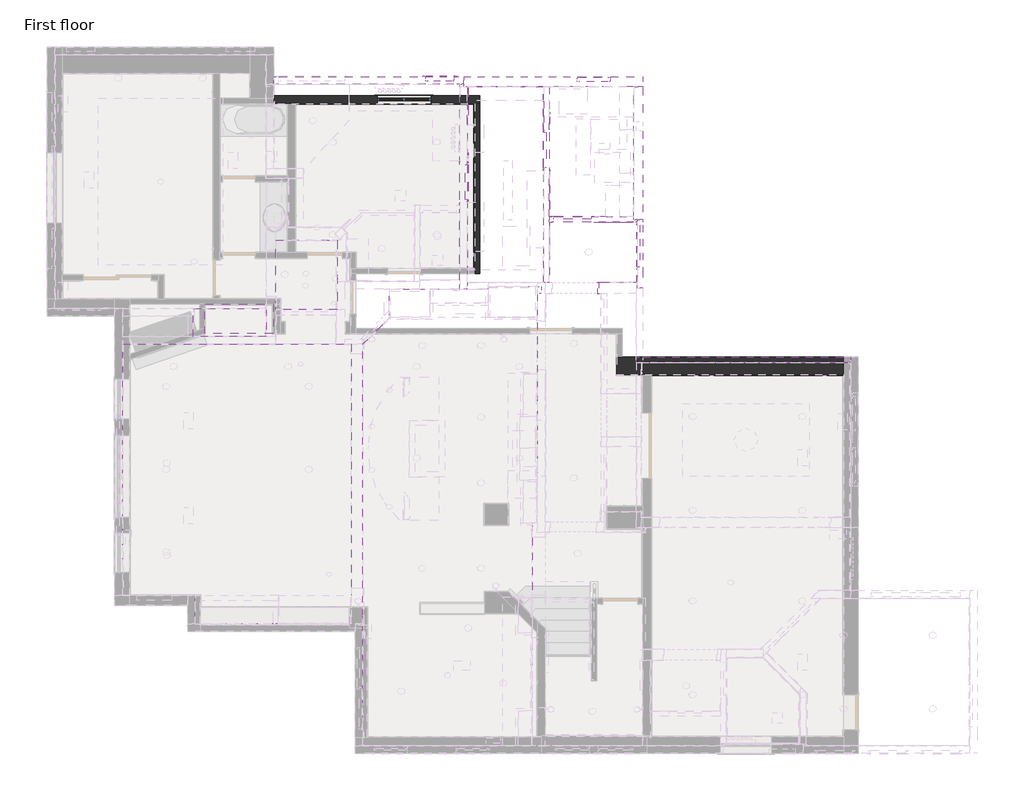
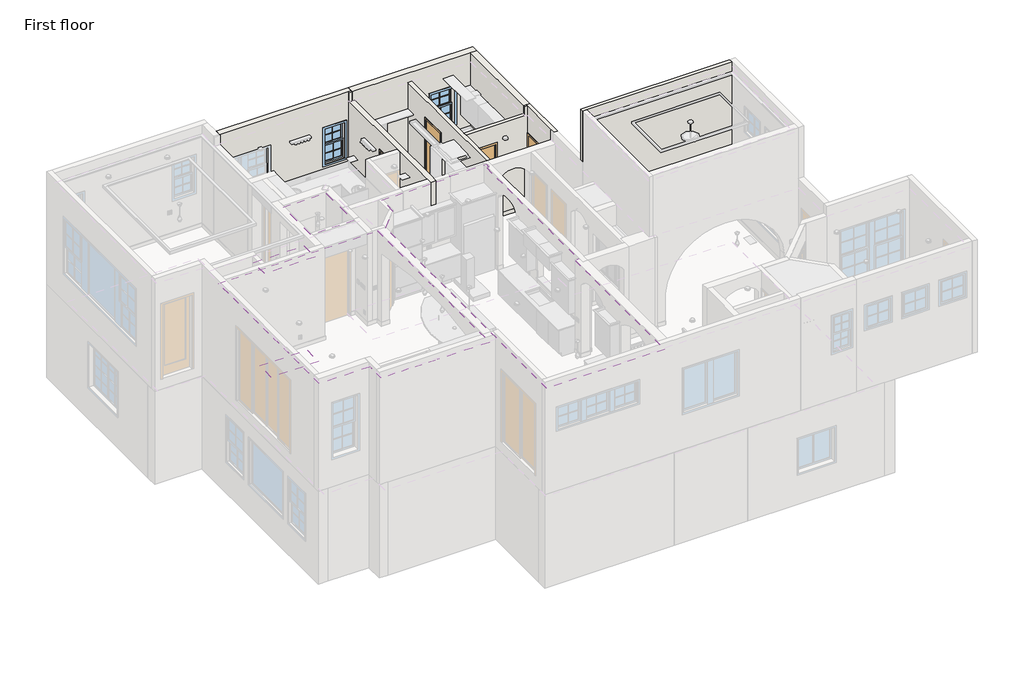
# One storey, part 8 of 14: 32 walls, 5 coverings, 4 doors, 3 windows.
"""IFC4 building model written with IfcOpenShell, lengths in millimetres."""

from ifc_helpers import new_model, si_unit, frame, origin, origin_with_axes, place, context, project, spatial, polyline, circle_curve, outline, extrude, faceted_brep, transform, mapped, element, save
from ifc_brep_helpers import plane_surface, revolved_surface, advanced_brep
from components import door_8ee43d1d, door_5d21c0d5, door_c59346e6, door_72c844fb, window_7b8e3ef4, window_c8df617f, window_f6dbb88f

model = new_model("IFC4")

# Units and contexts
model_context = context("Model", 3, world=origin())
ifc_project = project(units=[si_unit("LENGTHUNIT", "METRE", prefix="MILLI")], contexts=[model_context])

# Site, building, storey
site = spatial("IfcSite", under=ifc_project)
building = spatial("IfcBuilding", under=site)
storey = spatial("IfcBuildingStorey", under=building, Name="First floor", Elevation=0.0)

# Coverings
placement = place(None, origin())
element("IfcCovering", 1, ObjectType="Ceiling_1.5\"", at=placement, inside=storey, context=model_context, shape_type="AdvancedBrep", body=[
    advanced_brep(
    [(-88.9, 8851.9, 6299.2), (-406.4, 8851.9, 6299.2), (-1720.85, 8851.9, 6299.2), (-5029.2, 8851.9, 6299.2), (-5029.2, 3416.3, 6299.2), (-3454.4, 3416.3, 6299.2), (-3454.4, 2806.7, 6299.2), (-88.9, 2806.7, 6299.2), (-4152.9, 4356.1, 6299.2), (-4025.9, 4356.1, 6299.2), (-4152.9, 6140.0539638, 6299.2), (-4025.9, 6140.0539638, 6299.2), (-4152.9, 7938.0669477, 6299.2), (-4025.9, 7938.0669477, 6299.2), (-1064.7559661, 7938.0669477, 6299.2), (-937.7559661, 7938.0669477, 6299.2), (-1064.7559661, 6139.4838752, 6299.2), (-937.7559661, 6139.4838752, 6299.2), (-5029.2, 3416.3, 6261.1), (-5029.2, 8851.9, 6261.1), (-88.9, 8851.9, 6261.1), (-88.9, 2806.7, 6261.1), (-1663.7, 2806.7, 6261.1), (-1778.0, 2806.7, 6261.1), (-3454.4, 2806.7, 6261.1), (-3454.4, 3302.0, 6261.1), (-3454.4, 3416.3, 6261.1), (-4025.9, 4356.1, 6261.1), (-4152.9, 4356.1, 6261.1), (-4025.9, 6140.0539638, 6261.1), (-4152.9, 6140.0539638, 6261.1), (-4025.9, 7938.0669477, 6261.1), (-4152.9, 7938.0669477, 6261.1), (-937.7559661, 7938.0669477, 6261.1), (-1064.7559661, 7938.0669477, 6261.1), (-937.7559661, 6139.4838752, 6261.1), (-1064.7559661, 6139.4838752, 6261.1)],
    [
        (0, 1),
        (1, 2),
        (2, 3),
        (3, 4),
        (4, 5),
        (5, 6),
        (6, 7),
        (7, 0),
        (8, 9, circle_curve(frame((-4089.4, 4356.1, 6299.2), z_axis=(0.0, 0.0, -1.0), x_axis=(1.0, 0.0, 0.0)), 63.5)),
        (9, 8, circle_curve(frame((-4089.4, 4356.1, 6299.2), z_axis=(0.0, 0.0, -1.0), x_axis=(1.0, 0.0, 0.0)), 63.5)),
        (10, 11, circle_curve(frame((-4089.4, 6140.0539638, 6299.2), z_axis=(0.0, 0.0, -1.0), x_axis=(1.0, 0.0, 0.0)), 63.5)),
        (11, 10, circle_curve(frame((-4089.4, 6140.0539638, 6299.2), z_axis=(0.0, 0.0, -1.0), x_axis=(1.0, 0.0, 0.0)), 63.5)),
        (12, 13, circle_curve(frame((-4089.4, 7938.0669477, 6299.2), z_axis=(0.0, 0.0, -1.0), x_axis=(1.0, 0.0, 0.0)), 63.5)),
        (13, 12, circle_curve(frame((-4089.4, 7938.0669477, 6299.2), z_axis=(0.0, 0.0, -1.0), x_axis=(1.0, 0.0, 0.0)), 63.5)),
        (14, 15, circle_curve(frame((-1001.2559661, 7938.0669477, 6299.2), z_axis=(0.0, 0.0, -1.0), x_axis=(1.0, 0.0, 0.0)), 63.5)),
        (15, 14, circle_curve(frame((-1001.2559661, 7938.0669477, 6299.2), z_axis=(0.0, 0.0, -1.0), x_axis=(1.0, 0.0, 0.0)), 63.5)),
        (16, 17, circle_curve(frame((-1001.2559661, 6139.4838752, 6299.2), z_axis=(0.0, 0.0, -1.0), x_axis=(1.0, 0.0, 0.0)), 63.5)),
        (17, 16, circle_curve(frame((-1001.2559661, 6139.4838752, 6299.2), z_axis=(0.0, 0.0, -1.0), x_axis=(1.0, 0.0, 0.0)), 63.5)),
        (18, 19),
        (19, 20),
        (20, 21),
        (21, 22),
        (22, 23),
        (23, 24),
        (24, 25),
        (25, 26),
        (26, 18),
        (27, 28, circle_curve(frame((-4089.4, 4356.1, 6261.1), z_axis=(0.0, 0.0, 1.0), x_axis=(1.0, 0.0, 0.0)), 63.5)),
        (28, 27, circle_curve(frame((-4089.4, 4356.1, 6261.1), z_axis=(0.0, 0.0, 1.0), x_axis=(1.0, 0.0, 0.0)), 63.5)),
        (29, 30, circle_curve(frame((-4089.4, 6140.0539638, 6261.1), z_axis=(0.0, 0.0, 1.0), x_axis=(1.0, 0.0, 0.0)), 63.5)),
        (30, 29, circle_curve(frame((-4089.4, 6140.0539638, 6261.1), z_axis=(0.0, 0.0, 1.0), x_axis=(1.0, 0.0, 0.0)), 63.5)),
        (31, 32, circle_curve(frame((-4089.4, 7938.0669477, 6261.1), z_axis=(0.0, 0.0, 1.0), x_axis=(1.0, 0.0, 0.0)), 63.5)),
        (32, 31, circle_curve(frame((-4089.4, 7938.0669477, 6261.1), z_axis=(0.0, 0.0, 1.0), x_axis=(1.0, 0.0, 0.0)), 63.5)),
        (33, 34, circle_curve(frame((-1001.2559661, 7938.0669477, 6261.1), z_axis=(0.0, 0.0, 1.0), x_axis=(1.0, 0.0, 0.0)), 63.5)),
        (34, 33, circle_curve(frame((-1001.2559661, 7938.0669477, 6261.1), z_axis=(0.0, 0.0, 1.0), x_axis=(1.0, 0.0, 0.0)), 63.5)),
        (35, 36, circle_curve(frame((-1001.2559661, 6139.4838752, 6261.1), z_axis=(0.0, 0.0, 1.0), x_axis=(1.0, 0.0, 0.0)), 63.5)),
        (36, 35, circle_curve(frame((-1001.2559661, 6139.4838752, 6261.1), z_axis=(0.0, 0.0, 1.0), x_axis=(1.0, 0.0, 0.0)), 63.5)),
        (3, 19),
        (18, 4),
        (26, 5),
        (24, 6),
        (21, 7),
        (20, 0),
        (27, 9),
        (8, 28),
        (29, 11),
        (10, 30),
        (31, 13),
        (12, 32),
        (33, 15),
        (14, 34),
        (35, 17),
        (16, 36),
    ],
    [
        plane_surface(frame((-3619.5, 3416.3, 6299.2), z_axis=(0.0, 0.0, 1.0), x_axis=(1.0, 0.0, 0.0))),
        plane_surface(frame((-3619.5, 3416.3, 6261.1), z_axis=(0.0, 0.0, -1.0), x_axis=(-1.0, 0.0, 0.0))),
        plane_surface(frame((-5029.2, 8851.9, 6299.2), z_axis=(-1.0, 0.0, 0.0), x_axis=(0.0, 0.0, -1.0))),
        plane_surface(frame((-5029.2, 3416.3, 6299.2), z_axis=(0.0, -1.0, 0.0), x_axis=(0.0, 0.0, -1.0))),
        plane_surface(frame((-3454.4, 3416.3, 6299.2), z_axis=(-1.0, 0.0, 0.0), x_axis=(0.0, 0.0, -1.0))),
        plane_surface(frame((-3454.4, 2806.7, 6299.2), z_axis=(0.0, -1.0, 0.0), x_axis=(0.0, 0.0, -1.0))),
        plane_surface(frame((-88.9, 2806.7, 6299.2), z_axis=(1.0, 0.0, 0.0), x_axis=(0.0, 0.0, -1.0))),
        plane_surface(frame((-88.9, 8851.9, 6299.2), z_axis=(0.0, 1.0, 0.0), x_axis=(0.0, 0.0, -1.0))),
        revolved_surface(polyline([(-4025.9, 4356.1, 6261.1), (-4025.9, 4356.1, 6299.2)]), (-4089.4, 4356.1, 6299.2), (0.0, 0.0, -1.0)),
        revolved_surface(polyline([(-4025.9, 6140.0539638, 6261.1), (-4025.9, 6140.0539638, 6299.2)]), (-4089.4, 6140.0539638, 6299.2), (0.0, 0.0, -1.0)),
        revolved_surface(polyline([(-4025.9, 7938.0669477, 6261.1), (-4025.9, 7938.0669477, 6299.2)]), (-4089.4, 7938.0669477, 6299.2), (0.0, 0.0, -1.0)),
        revolved_surface(polyline([(-937.7559661, 7938.0669477, 6261.1), (-937.7559661, 7938.0669477, 6299.2)]), (-1001.2559661, 7938.0669477, 6299.2), (0.0, 0.0, -1.0)),
        revolved_surface(polyline([(-937.7559661, 6139.4838752, 6261.1), (-937.7559661, 6139.4838752, 6299.2)]), (-1001.2559661, 6139.4838752, 6299.2), (0.0, 0.0, -1.0)),
    ],
    [
        (0, [[1, 2, 3, 4, 5, 6, 7, 8], [9, 10], [11, 12], [13, 14], [15, 16], [17, 18]]),
        (1, [[19, 20, 21, 22, 23, 24, 25, 26, 27], [28, 29], [30, 31], [32, 33], [34, 35], [36, 37]]),
        (2, [[-4, 38, -19, 39]]),
        (3, [[-5, -39, -27, 40]]),
        (4, [[-6, -40, -26, -25, 41]]),
        (5, [[-7, -41, -24, -23, -22, 42]]),
        (6, [[-8, -42, -21, 43]]),
        (7, [[-43, -20, -38, -3, -2, -1]]),
        (8, [[44, -9, 45, -28]]),
        (8, [[-44, -29, -45, -10]]),
        (9, [[46, -11, 47, -30]]),
        (9, [[-46, -31, -47, -12]]),
        (10, [[48, -13, 49, -32]]),
        (10, [[-48, -33, -49, -14]]),
        (11, [[50, -15, 51, -34]]),
        (11, [[-50, -35, -51, -16]]),
        (12, [[52, -17, 53, -36]]),
        (12, [[-52, -37, -53, -18]]),
    ],
),
])
element("IfcCovering", 2, ObjectType="Ceiling_1.5\" 1", at=placement, inside=storey, context=model_context, shape_type="AdvancedBrep", body=[
    advanced_brep(
    [(2870.2, 10045.7, 6299.2), (736.4972395, 10045.7, 6299.2), (736.4972395, 9423.2972395, 6299.2), (165.1, 8851.9, 6299.2), (165.1, 165.1, 6299.2), (3822.7, 165.1, 6299.2), (3822.7, 4984.6447939, 6299.2), (3937.0, 4984.6447939, 6299.2), (3937.0, 9943.9947939, 6299.2), (4019.55, 9943.9947939, 6299.2), (4019.55, 10096.5, 6299.2), (3937.0, 10096.5, 6299.2), (2870.2, 10096.5, 6299.2), (2654.1972395, 8826.5, 6299.2), (2781.1972395, 8826.5, 6299.2), (2654.1972395, 7277.1, 6299.2), (2781.1972395, 7277.1, 6299.2), (2654.1972395, 5854.7, 6299.2), (2781.1972395, 5854.7, 6299.2), (2654.1972395, 4005.016738, 6299.2), (2781.1972395, 4005.016738, 6299.2), (1384.1972395, 4005.016738, 6299.2), (1511.1972395, 4005.016738, 6299.2), (1384.1972395, 8826.5, 6299.2), (1511.1972395, 8826.5, 6299.2), (736.4972395, 10045.7, 6261.1), (2870.2, 10045.7, 6261.1), (2870.2, 10096.5, 6261.1), (3937.0, 10096.5, 6261.1), (4019.55, 10096.5, 6261.1), (4019.55, 9943.9947939, 6261.1), (3937.0, 9943.9947939, 6261.1), (3937.0, 4984.6447939, 6261.1), (3822.7, 4984.6447939, 6261.1), (3822.7, 165.1, 6261.1), (165.1, 165.1, 6261.1), (165.1, 8851.9, 6261.1), (736.4972395, 9423.2972395, 6261.1), (2781.1972395, 8826.5, 6261.1), (2654.1972395, 8826.5, 6261.1), (2781.1972395, 7277.1, 6261.1), (2654.1972395, 7277.1, 6261.1), (2781.1972395, 5854.7, 6261.1), (2654.1972395, 5854.7, 6261.1), (2781.1972395, 4005.016738, 6261.1), (2654.1972395, 4005.016738, 6261.1), (1511.1972395, 4005.016738, 6261.1), (1384.1972395, 4005.016738, 6261.1), (1511.1972395, 8826.5, 6261.1), (1384.1972395, 8826.5, 6261.1)],
    [
        (0, 1),
        (1, 2),
        (2, 3),
        (3, 4),
        (4, 5),
        (5, 6),
        (6, 7),
        (7, 8),
        (8, 9),
        (9, 10),
        (10, 11),
        (11, 12),
        (12, 0),
        (13, 14, circle_curve(frame((2717.6972395, 8826.5, 6299.2), z_axis=(0.0, 0.0, -1.0), x_axis=(1.0, 0.0, 0.0)), 63.5)),
        (14, 13, circle_curve(frame((2717.6972395, 8826.5, 6299.2), z_axis=(0.0, 0.0, -1.0), x_axis=(1.0, 0.0, 0.0)), 63.5)),
        (15, 16, circle_curve(frame((2717.6972395, 7277.1, 6299.2), z_axis=(0.0, 0.0, -1.0), x_axis=(1.0, 0.0, 0.0)), 63.5)),
        (16, 15, circle_curve(frame((2717.6972395, 7277.1, 6299.2), z_axis=(0.0, 0.0, -1.0), x_axis=(1.0, 0.0, 0.0)), 63.5)),
        (17, 18, circle_curve(frame((2717.6972395, 5854.7, 6299.2), z_axis=(0.0, 0.0, -1.0), x_axis=(1.0, 0.0, 0.0)), 63.5)),
        (18, 17, circle_curve(frame((2717.6972395, 5854.7, 6299.2), z_axis=(0.0, 0.0, -1.0), x_axis=(1.0, 0.0, 0.0)), 63.5)),
        (19, 20, circle_curve(frame((2717.6972395, 4005.016738, 6299.2), z_axis=(0.0, 0.0, -1.0), x_axis=(1.0, 0.0, 0.0)), 63.5)),
        (20, 19, circle_curve(frame((2717.6972395, 4005.016738, 6299.2), z_axis=(0.0, 0.0, -1.0), x_axis=(1.0, 0.0, 0.0)), 63.5)),
        (21, 22, circle_curve(frame((1447.6972395, 4005.016738, 6299.2), z_axis=(0.0, 0.0, -1.0), x_axis=(1.0, 0.0, 0.0)), 63.5)),
        (22, 21, circle_curve(frame((1447.6972395, 4005.016738, 6299.2), z_axis=(0.0, 0.0, -1.0), x_axis=(1.0, 0.0, 0.0)), 63.5)),
        (23, 24, circle_curve(frame((1447.6972395, 8826.5, 6299.2), z_axis=(0.0, 0.0, -1.0), x_axis=(1.0, 0.0, 0.0)), 63.5)),
        (24, 23, circle_curve(frame((1447.6972395, 8826.5, 6299.2), z_axis=(0.0, 0.0, -1.0), x_axis=(1.0, 0.0, 0.0)), 63.5)),
        (25, 26),
        (26, 27),
        (27, 28),
        (28, 29),
        (29, 30),
        (30, 31),
        (31, 32),
        (32, 33),
        (33, 34),
        (34, 35),
        (35, 36),
        (36, 37),
        (37, 25),
        (38, 39, circle_curve(frame((2717.6972395, 8826.5, 6261.1), z_axis=(0.0, 0.0, 1.0), x_axis=(1.0, 0.0, 0.0)), 63.5)),
        (39, 38, circle_curve(frame((2717.6972395, 8826.5, 6261.1), z_axis=(0.0, 0.0, 1.0), x_axis=(1.0, 0.0, 0.0)), 63.5)),
        (40, 41, circle_curve(frame((2717.6972395, 7277.1, 6261.1), z_axis=(0.0, 0.0, 1.0), x_axis=(1.0, 0.0, 0.0)), 63.5)),
        (41, 40, circle_curve(frame((2717.6972395, 7277.1, 6261.1), z_axis=(0.0, 0.0, 1.0), x_axis=(1.0, 0.0, 0.0)), 63.5)),
        (42, 43, circle_curve(frame((2717.6972395, 5854.7, 6261.1), z_axis=(0.0, 0.0, 1.0), x_axis=(1.0, 0.0, 0.0)), 63.5)),
        (43, 42, circle_curve(frame((2717.6972395, 5854.7, 6261.1), z_axis=(0.0, 0.0, 1.0), x_axis=(1.0, 0.0, 0.0)), 63.5)),
        (44, 45, circle_curve(frame((2717.6972395, 4005.016738, 6261.1), z_axis=(0.0, 0.0, 1.0), x_axis=(1.0, 0.0, 0.0)), 63.5)),
        (45, 44, circle_curve(frame((2717.6972395, 4005.016738, 6261.1), z_axis=(0.0, 0.0, 1.0), x_axis=(1.0, 0.0, 0.0)), 63.5)),
        (46, 47, circle_curve(frame((1447.6972395, 4005.016738, 6261.1), z_axis=(0.0, 0.0, 1.0), x_axis=(1.0, 0.0, 0.0)), 63.5)),
        (47, 46, circle_curve(frame((1447.6972395, 4005.016738, 6261.1), z_axis=(0.0, 0.0, 1.0), x_axis=(1.0, 0.0, 0.0)), 63.5)),
        (48, 49, circle_curve(frame((1447.6972395, 8826.5, 6261.1), z_axis=(0.0, 0.0, 1.0), x_axis=(1.0, 0.0, 0.0)), 63.5)),
        (49, 48, circle_curve(frame((1447.6972395, 8826.5, 6261.1), z_axis=(0.0, 0.0, 1.0), x_axis=(1.0, 0.0, 0.0)), 63.5)),
        (0, 26),
        (25, 1),
        (37, 2),
        (36, 3),
        (35, 4),
        (34, 5),
        (33, 6),
        (32, 7),
        (31, 8),
        (30, 9),
        (29, 10),
        (27, 12),
        (38, 14),
        (13, 39),
        (40, 16),
        (15, 41),
        (42, 18),
        (17, 43),
        (44, 20),
        (19, 45),
        (46, 22),
        (21, 47),
        (48, 24),
        (23, 49),
    ],
    [
        plane_surface(frame((1397.0, 10045.7, 6299.2), z_axis=(0.0, 0.0, 1.0), x_axis=(-1.0, 0.0, 0.0))),
        plane_surface(frame((1397.0, 10045.7, 6261.1), z_axis=(0.0, 0.0, -1.0), x_axis=(1.0, 0.0, 0.0))),
        plane_surface(frame((2870.2, 10045.7, 6299.2), z_axis=(0.0, 1.0, 0.0), x_axis=(0.0, 0.0, -1.0))),
        plane_surface(frame((736.4972395, 10045.7, 6299.2), z_axis=(-1.0, 0.0, 0.0), x_axis=(0.0, 0.0, -1.0))),
        plane_surface(frame((736.4972395, 9423.2972395, 6299.2), z_axis=(-0.7071067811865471, 0.7071067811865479, 0.0), x_axis=(0.0, 0.0, -1.0))),
        plane_surface(frame((165.1, 8851.9, 6299.2), z_axis=(-1.0, 0.0, 0.0), x_axis=(0.0, 0.0, -1.0))),
        plane_surface(frame((165.1, 165.1, 6299.2), z_axis=(0.0, -1.0, 0.0), x_axis=(0.0, 0.0, -1.0))),
        plane_surface(frame((3822.7, 165.1, 6299.2), z_axis=(1.0, 0.0, 0.0), x_axis=(0.0, 0.0, -1.0))),
        plane_surface(frame((3822.7, 4984.6447939, 6299.2), z_axis=(0.0, -1.0, 0.0), x_axis=(0.0, 0.0, -1.0))),
        plane_surface(frame((3937.0, 4984.6447939, 6299.2), z_axis=(1.0, 0.0, 0.0), x_axis=(0.0, 0.0, -1.0))),
        plane_surface(frame((3937.0, 9943.9947939, 6299.2), z_axis=(0.0, -1.0, 0.0), x_axis=(0.0, 0.0, -1.0))),
        plane_surface(frame((4019.55, 9943.9947939, 6299.2), z_axis=(1.0, 0.0, 0.0), x_axis=(0.0, 0.0, -1.0))),
        plane_surface(frame((4019.55, 10096.5, 6299.2), z_axis=(0.0, 1.0, 0.0), x_axis=(0.0, 0.0, -1.0))),
        plane_surface(frame((2870.2, 10096.5, 6299.2), z_axis=(-1.0, 0.0, 0.0), x_axis=(0.0, 0.0, -1.0))),
        revolved_surface(polyline([(2781.1972395, 8826.5, 6261.1), (2781.1972395, 8826.5, 6299.2)]), (2717.6972395, 8826.5, 6299.2), (0.0, 0.0, -1.0)),
        revolved_surface(polyline([(2781.1972395, 7277.1, 6261.1), (2781.1972395, 7277.1, 6299.2)]), (2717.6972395, 7277.1, 6299.2), (0.0, 0.0, -1.0)),
        revolved_surface(polyline([(2781.1972395, 5854.7, 6261.1), (2781.1972395, 5854.7, 6299.2)]), (2717.6972395, 5854.7, 6299.2), (0.0, 0.0, -1.0)),
        revolved_surface(polyline([(2781.1972395, 4005.016738, 6261.1), (2781.1972395, 4005.016738, 6299.2)]), (2717.6972395, 4005.016738, 6299.2), (0.0, 0.0, -1.0)),
        revolved_surface(polyline([(1511.1972395, 4005.016738, 6261.1), (1511.1972395, 4005.016738, 6299.2)]), (1447.6972395, 4005.016738, 6299.2), (0.0, 0.0, -1.0)),
        revolved_surface(polyline([(1511.1972395, 8826.5, 6261.1), (1511.1972395, 8826.5, 6299.2)]), (1447.6972395, 8826.5, 6299.2), (0.0, 0.0, -1.0)),
    ],
    [
        (0, [[1, 2, 3, 4, 5, 6, 7, 8, 9, 10, 11, 12, 13], [14, 15], [16, 17], [18, 19], [20, 21], [22, 23], [24, 25]]),
        (1, [[26, 27, 28, 29, 30, 31, 32, 33, 34, 35, 36, 37, 38], [39, 40], [41, 42], [43, 44], [45, 46], [47, 48], [49, 50]]),
        (2, [[-1, 51, -26, 52]]),
        (3, [[-2, -52, -38, 53]]),
        (4, [[-3, -53, -37, 54]]),
        (5, [[-4, -54, -36, 55]]),
        (6, [[-5, -55, -35, 56]]),
        (7, [[-6, -56, -34, 57]]),
        (8, [[-7, -57, -33, 58]]),
        (9, [[-8, -58, -32, 59]]),
        (10, [[-9, -59, -31, 60]]),
        (11, [[-10, -60, -30, 61]]),
        (12, [[-12, -11, -61, -29, -28, 62]]),
        (13, [[-13, -62, -27, -51]]),
        (14, [[63, -14, 64, -39]]),
        (14, [[-63, -40, -64, -15]]),
        (15, [[65, -16, 66, -41]]),
        (15, [[-65, -42, -66, -17]]),
        (16, [[67, -18, 68, -43]]),
        (16, [[-67, -44, -68, -19]]),
        (17, [[69, -20, 70, -45]]),
        (17, [[-69, -46, -70, -21]]),
        (18, [[71, -22, 72, -47]]),
        (18, [[-71, -48, -72, -23]]),
        (19, [[73, -24, 74, -49]]),
        (19, [[-73, -50, -74, -25]]),
    ],
),
])
element("IfcCovering", 3, ObjectType="Ceiling_14\"", at=placement, inside=storey, context=model_context, shape_type="SweptSolid", body=[
    extrude(outline(polyline([(-1924.05, 9626.6), (-1924.05, 9017.0), (-3498.85, 9017.0), (-3498.85, 9626.6), (-1924.05, 9626.6)])), frame((0.0, 0.0, 5943.6), z_axis=(0.0, 0.0, 1.0), x_axis=(1.0, 0.0, 0.0)), (0.0, 0.0, 1.0), 355.6),
])
element("IfcCovering", 4, ObjectType="Ceiling_2\"", at=placement, inside=storey, context=model_context, shape_type="SweptSolid", body=[
    extrude(outline(polyline([(-393.7, 11099.8), (-393.7, 9601.2), (-1720.85, 9601.2), (-1720.85, 11099.8), (-393.7, 11099.8)])), frame((0.0, 0.0, 6248.4), z_axis=(0.0, 0.0, 1.0), x_axis=(1.0, 0.0, 0.0)), (0.0, 0.0, 1.0), 50.8),
])
element("IfcCovering", 5, ObjectType="Ceiling_6\"", at=placement, inside=storey, context=model_context, shape_type="SweptSolid", body=[
    extrude(outline(polyline([(-3251.2, 9715.5), (-1778.0, 9715.5), (-1778.0, 9080.5), (-3251.2, 9080.5), (-3251.2, 9715.5)])), frame((0.0, 0.0, 2413.0), z_axis=(0.0, 0.0, 1.0), x_axis=(1.0, 0.0, 0.0)), (0.0, 0.0, 1.0), 152.4),
])

# Doors
door_shape = door_8ee43d1d(model_context)
element("IfcDoor", 6, ObjectType="Door_1 : 2'-6\" X 8'-0\"", at=placement, inside=storey, context=model_context, shape_type="MappedRepresentation", body=[
    mapped(door_shape, transform((4133.85, 13055.4947939, 3251.2), x_axis=(0.0, 1.0, 0.0), y_axis=(-1.0, 0.0, 0.0), z_axis=(0.0, 0.0, 1.0))),
])
door_2_shape = door_5d21c0d5(model_context)
element("IfcDoor", 7, ObjectType="Door_1 : 2'-6\" X 8'-0\"", at=placement, inside=storey, context=model_context, shape_type="MappedRepresentation", body=[
    mapped(door_2_shape, transform((2343.15, 12356.9947939, 3251.2), x_axis=(0.0, -1.0, 0.0), y_axis=(1.0, 0.0, 0.0), z_axis=(0.0, 0.0, 1.0))),
])
door_3_shape = door_c59346e6(model_context)
element("IfcDoor", 8, ObjectType="Door_1 : 2'-8\" X 8'-0\"", at=placement, inside=storey, context=model_context, shape_type="MappedRepresentation", body=[
    mapped(door_3_shape, transform((4699.0, 11550.5447939, 3251.2), x_axis=(-1.0, 0.0, 0.0), y_axis=(0.0, -1.0, 0.0), z_axis=(0.0, 0.0, 1.0))),
])
door_4_shape = door_72c844fb(model_context)
element("IfcDoor", 9, ObjectType="Door_1 : 3'-0\" X 8'-0\"", at=placement, inside=storey, context=model_context, shape_type="MappedRepresentation", body=[
    mapped(door_4_shape, transform((6153.15, 10972.6947939, 3251.2), x_axis=(0.0, 1.0, 0.0), y_axis=(-1.0, 0.0, 0.0), z_axis=(0.0, 0.0, 1.0))),
])

# Walls
element("IfcWall", 10, ObjectType="Wall Border_T1", at=placement, inside=storey, context=model_context, shape_type="Brep", body=[
    faceted_brep([(6400.8, 8178.8, 0.0), (10541.0, 8178.8, 0.0), (10553.7, 8178.8, 0.0), (10553.7, 8178.8, 127.0), (10541.0, 8178.8, 127.0), (6400.8, 8178.8, 127.0), (6400.8, 8191.5, 0.0), (6400.8, 8191.5, 127.0), (10553.7, 8191.5, 127.0), (10553.7, 8191.5, 0.0)], [[[0, 1, 2, 3, 4, 5]], [[6, 7, 8, 9]], [[2, 1, 0, 6, 9]], [[5, 4, 3, 8, 7]], [[3, 2, 9, 8]], [[0, 5, 7, 6]]]),
])
element("IfcWall", 11, ObjectType="Wall Border_T1", at=placement, inside=storey, context=model_context, shape_type="Brep", body=[
    faceted_brep([(2578.1, 14046.2, 0.0), (2578.1, 14046.2, 127.0), (2565.4, 14046.2, 127.0), (-1282.7, 14046.2, 127.0), (-1282.7, 14046.2, 0.0), (2565.4, 14046.2, 0.0), (2578.1, 14058.9, 127.0), (2578.1, 14058.9, 0.0), (-1282.7, 14058.9, 0.0), (-1282.7, 14058.9, 127.0)], [[[0, 1, 2, 3, 4, 5]], [[6, 7, 8, 9]], [[7, 0, 5, 4, 8]], [[1, 0, 7, 6]], [[1, 6, 9, 3, 2]], [[4, 3, 9, 8]]]),
])
element("IfcWall", 12, ObjectType="Wall Border_T1", at=placement, inside=storey, context=model_context, shape_type="SweptSolid", body=[
    extrude(outline(polyline([(2578.1, 10502.9), (2565.4, 10502.9), (2565.4, 14046.2), (2578.1, 14046.2), (2578.1, 10502.9)])), origin_with_axes(), (0.0, 0.0, 1.0), 127.0),
])
element("IfcWall", 13, ObjectType="Wall Border_T1", at=placement, inside=storey, context=model_context, shape_type="Brep", body=[
    faceted_brep([(6083.3, 10464.6947939, 3251.2), (6083.3, 10197.9947939, 3251.2), (6083.3, 10185.2947939, 3251.2), (6083.3, 10185.2947939, 3378.2), (6083.3, 10197.9947939, 3378.2), (6083.3, 10464.6947939, 3378.2), (6096.0, 10464.6947939, 3251.2), (6096.0, 10464.6947939, 3378.2), (6096.0, 10185.2947939, 3378.2), (6096.0, 10185.2947939, 3251.2)], [[[0, 1, 2, 3, 4, 5]], [[6, 7, 8, 9]], [[2, 1, 0, 6, 9]], [[5, 4, 3, 8, 7]], [[0, 5, 7, 6]], [[3, 2, 9, 8]]]),
])
element("IfcWall", 14, ObjectType="Wall Border_T1", at=placement, inside=storey, context=model_context, shape_type="Brep", body=[
    faceted_brep([(6083.3, 10197.9947939, 3251.2), (5245.1, 10197.9947939, 3251.2), (5245.1, 10197.9947939, 3378.2), (6083.3, 10197.9947939, 3378.2), (6083.3, 10185.2947939, 3251.2), (6083.3, 10185.2947939, 3378.2), (5257.8, 10185.2947939, 3378.2), (5245.1, 10185.2947939, 3378.2), (5245.1, 10185.2947939, 3251.2), (5257.8, 10185.2947939, 3251.2)], [[[0, 1, 2, 3]], [[4, 5, 6, 7, 8, 9]], [[1, 0, 4, 9, 8]], [[3, 2, 7, 6, 5]], [[0, 3, 5, 4]], [[2, 1, 8, 7]]]),
])
element("IfcWall", 15, ObjectType="Wall Border_T1", at=placement, inside=storey, context=model_context, shape_type="Brep", body=[
    faceted_brep([(5245.1, 10185.2947939, 3251.2), (5245.1, 9931.2947939, 3251.2), (5245.1, 9931.2947939, 3378.2), (5245.1, 10185.2947939, 3378.2), (5257.8, 10185.2947939, 3251.2), (5257.8, 10185.2947939, 3378.2), (5257.8, 9943.9947939, 3378.2), (5257.8, 9931.2947939, 3378.2), (5257.8, 9931.2947939, 3251.2), (5257.8, 9943.9947939, 3251.2)], [[[0, 1, 2, 3]], [[4, 5, 6, 7, 8, 9]], [[1, 0, 4, 9, 8]], [[3, 2, 7, 6, 5]], [[0, 3, 5, 4]], [[2, 1, 8, 7]]]),
])
element("IfcWall", 16, ObjectType="Wall Border_T1", at=placement, inside=storey, context=model_context, shape_type="Brep", body=[
    faceted_brep([(4241.8, 11493.3947939, 3251.2), (4191.0, 11493.3947939, 3251.2), (4191.0, 11493.3947939, 3378.2), (4241.8, 11493.3947939, 3378.2), (4241.8, 11480.6947939, 3251.2), (4241.8, 11480.6947939, 3378.2), (4203.7, 11480.6947939, 3378.2), (4191.0, 11480.6947939, 3378.2), (4191.0, 11480.6947939, 3251.2), (4203.7, 11480.6947939, 3251.2)], [[[0, 1, 2, 3]], [[4, 5, 6, 7, 8, 9]], [[1, 0, 4, 9, 8]], [[3, 2, 7, 6, 5]], [[0, 3, 5, 4]], [[2, 1, 8, 7]]]),
])
element("IfcWall", 17, ObjectType="Wall Border_T1", at=placement, inside=storey, context=model_context, shape_type="SweptSolid", body=[
    extrude(outline(polyline([(2260.6, 12814.1947939), (2260.6, 12788.7947939), (2247.9, 12788.7947939), (2247.9, 12814.1947939), (2260.6, 12814.1947939)])), frame((0.0, 0.0, 3251.2), z_axis=(0.0, 0.0, 1.0), x_axis=(1.0, 0.0, 0.0)), (0.0, 0.0, 1.0), 127.0),
])
element("IfcWall", 18, ObjectType="Wall Border_T1", at=placement, inside=storey, context=model_context, shape_type="Brep", body=[
    faceted_brep([(4076.7, 13487.2947939, 3251.2), (4076.7, 14427.0947939, 3251.2), (4076.7, 14427.0947939, 3378.2), (4076.7, 13487.2947939, 3378.2), (4064.0, 13487.2947939, 3251.2), (4064.0, 13487.2947939, 3378.2), (4064.0, 14414.3947939, 3378.2), (4064.0, 14427.0947939, 3378.2), (4064.0, 14427.0947939, 3251.2), (4064.0, 14414.3947939, 3251.2)], [[[0, 1, 2, 3]], [[4, 5, 6, 7, 8, 9]], [[1, 0, 4, 9, 8]], [[3, 2, 7, 6, 5]], [[0, 3, 5, 4]], [[2, 1, 8, 7]]]),
])
element("IfcWall", 19, ObjectType="Wall Border_T1", at=placement, inside=storey, context=model_context, shape_type="SweptSolid", body=[
    extrude(outline(polyline([(3263.9, 14427.0947939), (4064.0, 14427.0947939), (4064.0, 14414.3947939), (3263.9, 14414.3947939), (3263.9, 14427.0947939)])), frame((0.0, 0.0, 3251.2), z_axis=(0.0, 0.0, 1.0), x_axis=(1.0, 0.0, 0.0)), (0.0, 0.0, 1.0), 127.0),
])
element("IfcWall", 20, ObjectType="Wall Border_T1", at=placement, inside=storey, context=model_context, shape_type="SweptSolid", body=[
    extrude(outline(polyline([(2425.7, 13601.5947939), (2425.7, 14414.3947939), (2438.4, 14414.3947939), (2438.4, 13601.5947939), (2425.7, 13601.5947939)])), frame((0.0, 0.0, 3251.2), z_axis=(0.0, 0.0, 1.0), x_axis=(1.0, 0.0, 0.0)), (0.0, 0.0, 1.0), 127.0),
])
element("IfcWall", 21, ObjectType="Wall Border_T1", at=placement, inside=storey, context=model_context, shape_type="SweptSolid", body=[
    extrude(outline(polyline([(2438.4, 12991.9947939), (2438.4, 12788.7947939), (2425.7, 12788.7947939), (2425.7, 12991.9947939), (2438.4, 12991.9947939)])), frame((0.0, 0.0, 3251.2), z_axis=(0.0, 0.0, 1.0), x_axis=(1.0, 0.0, 0.0)), (0.0, 0.0, 1.0), 127.0),
])
element("IfcWall", 22, ObjectType="Wall Border_T1", at=placement, inside=storey, context=model_context, shape_type="Brep", body=[
    faceted_brep([(4203.7, 13487.2947939, 3251.2), (4203.7, 13773.0447939, 3251.2), (4203.7, 13773.0447939, 3354.3875), (4203.7, 13773.0447939, 3378.2), (4203.7, 13487.2947939, 3378.2), (4191.0, 13487.2947939, 3251.2), (4191.0, 13487.2947939, 3378.2), (4191.0, 13773.0447939, 3378.2), (4191.0, 13773.0447939, 3354.3875), (4191.0, 13773.0447939, 3251.2)], [[[0, 1, 2, 3, 4]], [[5, 6, 7, 8, 9]], [[1, 0, 5, 9]], [[3, 2, 1, 9, 8, 7]], [[4, 3, 7, 6]], [[0, 4, 6, 5]]]),
])
element("IfcWall", 23, ObjectType="Wall Border_T1", at=placement, inside=storey, context=model_context, shape_type="SweptSolid", body=[
    extrude(outline(polyline([(4191.0, 11607.6947939), (4191.0, 12623.6947939), (4203.7, 12623.6947939), (4203.7, 11607.6947939), (4191.0, 11607.6947939)])), frame((0.0, 0.0, 3251.2), z_axis=(0.0, 0.0, 1.0), x_axis=(1.0, 0.0, 0.0)), (0.0, 0.0, 1.0), 127.0),
])
element("IfcWall", 24, ObjectType="Wall Border_T1", at=placement, inside=storey, context=model_context, shape_type="SweptSolid", body=[
    extrude(outline(polyline([(4241.8, 11607.6947939), (4203.7, 11607.6947939), (4203.7, 11620.3947939), (4241.8, 11620.3947939), (4241.8, 11607.6947939)])), frame((0.0, 0.0, 3251.2), z_axis=(0.0, 0.0, 1.0), x_axis=(1.0, 0.0, 0.0)), (0.0, 0.0, 1.0), 127.0),
])
element("IfcWall", 25, ObjectType="Wall Border_T1", at=placement, inside=storey, context=model_context, shape_type="SweptSolid", body=[
    extrude(outline(polyline([(5410.2, 11607.6947939), (5156.2, 11607.6947939), (5156.2, 11620.3947939), (5410.2, 11620.3947939), (5410.2, 11607.6947939)])), frame((0.0, 0.0, 3251.2), z_axis=(0.0, 0.0, 1.0), x_axis=(1.0, 0.0, 0.0)), (0.0, 0.0, 1.0), 127.0),
])
element("IfcWall", 26, ObjectType="Wall Border_T1", at=placement, inside=storey, context=model_context, shape_type="SweptSolid", body=[
    extrude(outline(polyline([(6096.0, 11480.6947939), (5156.2, 11480.6947939), (5156.2, 11493.3947939), (6096.0, 11493.3947939), (6096.0, 11480.6947939)])), frame((0.0, 0.0, 3251.2), z_axis=(0.0, 0.0, 1.0), x_axis=(1.0, 0.0, 0.0)), (0.0, 0.0, 1.0), 127.0),
])
element("IfcWall", 27, ObjectType="Wall Border_T1", at=placement, inside=storey, context=model_context, shape_type="Brep", body=[
    faceted_brep([(6197.5999991, 8445.5, 3251.2), (10693.4, 8445.5, 3251.2), (10706.1, 8445.5, 3251.2), (10706.1, 8445.5, 3378.2), (10693.4, 8445.5, 3378.2), (6197.5999991, 8445.5, 3378.2), (6197.5999991, 8458.2, 3251.2), (6197.5999991, 8458.2, 3378.2), (10706.1, 8458.2, 3378.2), (10706.1, 8458.2, 3251.2)], [[[0, 1, 2, 3, 4, 5]], [[6, 7, 8, 9]], [[2, 1, 0, 6, 9]], [[5, 4, 3, 8, 7]], [[3, 2, 9, 8]], [[0, 5, 7, 6]]]),
])
element("IfcWall", 28, ObjectType="Wall Border_T1", at=placement, inside=storey, context=model_context, shape_type="SweptSolid", body=[
    extrude(outline(polyline([(4203.7, 13874.6447939), (4203.7, 13773.0447939), (4191.0, 13773.0447939), (4191.0, 13874.6447939), (4203.7, 13874.6447939)])), frame((0.0, 0.0, 3251.2), z_axis=(0.0, 0.0, 1.0), x_axis=(1.0, 0.0, 0.0)), (0.0, 0.0, 1.0), 103.1875),
])
element("IfcWall", 29, ObjectType="Wall Border_T1", at=placement, inside=storey, context=model_context, shape_type="Brep", body=[
    faceted_brep([(3238.5, 14427.0947939, 3251.2), (2425.7, 14427.0947939, 3251.2), (2425.7, 14427.0947939, 3378.2), (3238.5, 14427.0947939, 3378.2), (3238.5, 14414.3947939, 3251.2), (3238.5, 14414.3947939, 3378.2), (2438.4, 14414.3947939, 3378.2), (2425.7, 14414.3947939, 3378.2), (2425.7, 14414.3947939, 3251.2), (2438.4, 14414.3947939, 3251.2)], [[[0, 1, 2, 3]], [[4, 5, 6, 7, 8, 9]], [[1, 0, 4, 9, 8]], [[3, 2, 7, 6, 5]], [[0, 3, 5, 4]], [[2, 1, 8, 7]]]),
])
element("IfcWall", 30, ObjectType="Wall Border_T1", at=placement, inside=storey, context=model_context, shape_type="SweptSolid", body=[
    extrude(outline(polyline([(4064.0, 12610.9947939), (4064.0, 12623.6947939), (4076.7, 12623.6947939), (4076.7, 12610.9947939), (4064.0, 12610.9947939)])), frame((0.0, 0.0, 3251.2), z_axis=(0.0, 0.0, 1.0), x_axis=(1.0, 0.0, 0.0)), (0.0, 0.0, 1.0), 127.0),
])
element("IfcWall", 31, ObjectType="Wall_1'3\"", at=placement, inside=storey, context=model_context, shape_type="Brep", body=[
    faceted_brep([(10553.7, 8572.5, -152.4), (5765.8, 8572.5, -152.4), (5651.5, 8572.5, -152.4), (5651.5, 8572.5, 2908.3), (5765.8, 8572.5, 2908.3), (10553.7, 8572.5, 2908.3), (10553.7, 8191.5, -152.4), (10553.7, 8191.5, 2908.3), (5651.5, 8191.5, 2908.3), (5651.5, 8191.5, -152.4)], [[[0, 1, 2, 3, 4, 5]], [[6, 7, 8, 9]], [[2, 1, 0, 6, 9]], [[5, 4, 3, 8, 7]], [[0, 5, 7, 6]], [[3, 2, 9, 8]]]),
])
element("IfcWall", 32, ObjectType="Wall_4.5\"", at=placement, inside=storey, context=model_context, shape_type="Brep", body=[
    faceted_brep([(6096.0, 11550.5447939, 2908.3), (6096.0, 11493.3947939, 2908.3), (6096.0, 10185.2947939, 2908.3), (6096.0, 10064.6447939, 2908.3), (6096.0, 10064.6447939, 6604.0), (6096.0, 10185.2947939, 6604.0), (6096.0, 11493.3947939, 6604.0), (6096.0, 11550.5447939, 6604.0), (6096.0, 10515.4947939, 3251.2), (6096.0, 11429.8947939, 3251.2), (6096.0, 11429.8947939, 5689.6), (6096.0, 10515.4947939, 5689.6), (6210.3, 11550.5447939, 2908.3), (6210.3, 11550.5447939, 6604.0), (6210.3, 10064.6447939, 6604.0), (6210.3, 10064.6447939, 2908.3), (6210.3, 10515.4947939, 3251.2), (6210.3, 10515.4947939, 5689.6), (6210.3, 11429.8947939, 5689.6), (6210.3, 11429.8947939, 3251.2)], [[[0, 1, 2, 3, 4, 5, 6, 7], [8, 9, 10, 11]], [[12, 13, 14, 15], [16, 17, 18, 19]], [[3, 2, 1, 0, 12, 15]], [[4, 3, 15, 14]], [[7, 6, 5, 4, 14, 13]], [[0, 7, 13, 12]], [[9, 8, 16, 19]], [[10, 9, 19, 18]], [[11, 10, 18, 17]], [[8, 11, 17, 16]]]),
])
element("IfcWall", 33, ObjectType="Wall_4.5\"", at=placement, inside=storey, context=model_context, shape_type="Brep", body=[
    faceted_brep([(10706.1, 8572.5, 2908.3), (6210.3, 8572.5, 2908.3), (6210.3, 8572.5, 6604.0), (6070.5999991, 8572.5, 6604.0), (6070.5999991, 8572.5, 8280.4), (10706.1, 8572.5, 8280.4), (10706.1, 8458.2, 2908.3), (10706.1, 8458.2, 8280.4), (6184.8999991, 8458.2, 8280.4), (6070.5999991, 8458.2, 8280.4), (6070.5999991, 8458.2, 6604.0), (6210.3, 8458.2, 6604.0), (6210.3, 8458.2, 2908.3)], [[[0, 1, 2, 3, 4, 5]], [[6, 7, 8, 9, 10, 11, 12]], [[1, 0, 6, 12]], [[5, 4, 9, 8, 7]], [[0, 5, 7, 6]], [[10, 3, 2, 11]], [[1, 12, 11, 2]], [[4, 3, 10, 9]]]),
])
element("IfcWall", 34, ObjectType="Wall_4.5\"", at=placement, inside=storey, context=model_context, shape_type="Brep", body=[
    faceted_brep([(4076.7, 14427.0947939, 3251.2), (4076.7, 13436.4947939, 3251.2), (4076.7, 13436.4947939, 5689.6), (4076.7, 12674.4947939, 5689.6), (4076.7, 12674.4947939, 3251.2), (4076.7, 10185.2947939, 3251.2), (4076.7, 10185.2947939, 6299.2), (4076.7, 14427.0947939, 6299.2), (4191.0, 13436.4947939, 5689.6), (4191.0, 13436.4947939, 3251.2), (4191.0, 14427.0947939, 3251.2), (4191.0, 14427.0947939, 6299.2), (4191.0, 11607.6947939, 6299.2), (4191.0, 11493.3947939, 6299.2), (4191.0, 10185.2947939, 6299.2), (4191.0, 10185.2947939, 3251.2), (4191.0, 11493.3947939, 3251.2), (4191.0, 11607.6947939, 3251.2), (4191.0, 12674.4947939, 3251.2), (4191.0, 12674.4947939, 5689.6), (4102.1, 10185.2947939, 3251.2), (4102.1, 10185.2947939, 6299.2)], [[[0, 1, 2, 3, 4, 5, 6, 7]], [[8, 9, 10, 11, 12, 13, 14, 15, 16, 17, 18, 19]], [[10, 9, 1, 0]], [[18, 17, 16, 15, 20, 5, 4]], [[7, 6, 21, 14, 13, 12, 11]], [[0, 7, 11, 10]], [[2, 1, 9, 8]], [[3, 2, 8, 19]], [[4, 3, 19, 18]], [[6, 5, 20, 15, 14, 21]]]),
])
element("IfcWall", 35, ObjectType="Wall_4.5\"", at=placement, inside=storey, context=model_context, shape_type="Brep", body=[
    faceted_brep([(4292.6, 11607.6947939, 5689.6), (4292.6, 11607.6947939, 3251.2), (4203.7, 11607.6947939, 3251.2), (4191.0, 11607.6947939, 3251.2), (4191.0, 11607.6947939, 3378.2), (4191.0, 11607.6947939, 6299.2), (6019.8, 11607.6947939, 6299.2), (6019.8, 11607.6947939, 3251.2), (5105.4, 11607.6947939, 3251.2), (5105.4, 11607.6947939, 5689.6), (4292.6, 11493.3947939, 3251.2), (4292.6, 11493.3947939, 5689.6), (5105.4, 11493.3947939, 5689.6), (5105.4, 11493.3947939, 3251.2), (6019.8, 11493.3947939, 3251.2), (6019.8, 11493.3947939, 2908.3), (6096.0, 11493.3947939, 2908.3), (6096.0, 11493.3947939, 3251.2), (6096.0, 11493.3947939, 6299.2), (6096.0, 11493.3947939, 6604.0), (6019.8, 11493.3947939, 6604.0), (6019.8, 11493.3947939, 6299.2), (4191.0, 11493.3947939, 6299.2), (4191.0, 11493.3947939, 3251.2), (6019.8, 11550.5447939, 2908.3), (6096.0, 11550.5447939, 2908.3), (6096.0, 11550.5447939, 6604.0), (6019.8, 11550.5447939, 6604.0), (6019.8, 11550.5447939, 6299.2), (6019.8, 11550.5447939, 3251.2)], [[[0, 1, 2, 3, 4, 5, 6, 7, 8, 9]], [[10, 11, 12, 13, 14, 15, 16, 17, 18, 19, 20, 21, 22, 23]], [[24, 25, 16, 15]], [[19, 26, 27, 20]], [[6, 28, 29, 7]], [[27, 26, 25, 24, 29, 28]], [[26, 19, 18, 17, 16, 25]], [[11, 10, 1, 0]], [[12, 11, 0, 9]], [[13, 12, 9, 8]], [[22, 5, 4, 3, 23]], [[21, 28, 6, 5, 22]], [[28, 21, 20, 27]], [[3, 2, 1, 10, 23]], [[29, 14, 13, 8, 7]], [[14, 29, 24, 15]]]),
])
element("IfcWall", 36, ObjectType="Wall_4.5\"", at=placement, inside=storey, context=model_context, shape_type="Brep", body=[
    faceted_brep([(2692.4, 10375.9, -152.4), (2692.4, 14058.9, -152.4), (2692.4, 14058.9, 2908.3), (2692.4, 10375.9, 2908.3), (2578.1, 10375.9, -152.4), (2578.1, 10375.9, 2908.3), (2578.1, 10490.2, 2908.3), (2578.1, 14058.9, 2908.3), (2578.1, 14058.9, -152.4), (2578.1, 10490.2, -152.4)], [[[0, 1, 2, 3]], [[4, 5, 6, 7, 8, 9]], [[1, 0, 4, 9, 8]], [[3, 2, 7, 6, 5]], [[2, 1, 8, 7]], [[0, 3, 5, 4]]]),
])
element("IfcWall", 37, ObjectType="Wall_6.5\"", at=placement, inside=storey, context=model_context, shape_type="Brep", body=[
    faceted_brep([(-1758.95, 14477.8947939, 6604.0), (-1758.95, 14477.8947939, 2908.3), (2260.6, 14477.8947939, 2908.3), (2343.15, 14477.8947939, 2908.3), (2343.15, 14477.8947939, 6604.0), (2260.6, 14477.8947939, 6604.0), (1524.0, 14477.8947939, 5638.8), (2133.6, 14477.8947939, 5638.8), (2133.6, 14477.8947939, 4470.4), (1524.0, 14477.8947939, 4470.4), (-1651.0, 14477.8947939, 5638.8), (-228.6, 14477.8947939, 5638.8), (-228.6, 14477.8947939, 4470.4), (-1651.0, 14477.8947939, 4470.4), (-1758.95, 14642.9947939, 2908.3), (-1758.95, 14642.9947939, 6604.0), (2343.15, 14642.9947939, 6604.0), (2343.15, 14642.9947939, 2908.3), (1524.0, 14642.9947939, 5638.8), (1524.0, 14642.9947939, 4470.4), (2133.6, 14642.9947939, 4470.4), (2133.6, 14642.9947939, 5638.8), (-1651.0, 14642.9947939, 5638.8), (-1651.0, 14642.9947939, 4470.4), (-228.6, 14642.9947939, 4470.4), (-228.6, 14642.9947939, 5638.8)], [[[0, 1, 2, 3, 4, 5], [6, 7, 8, 9], [10, 11, 12, 13]], [[14, 15, 16, 17], [18, 19, 20, 21], [22, 23, 24, 25]], [[3, 2, 1, 14, 17]], [[4, 3, 17, 16]], [[0, 5, 4, 16, 15]], [[19, 18, 6, 9]], [[20, 19, 9, 8]], [[21, 20, 8, 7]], [[18, 21, 7, 6]], [[23, 22, 10, 13]], [[24, 23, 13, 12]], [[25, 24, 12, 11]], [[22, 25, 11, 10]], [[0, 15, 14, 1]]]),
])
element("IfcWall", 38, ObjectType="Wall_6.5\"", at=placement, inside=storey, context=model_context, shape_type="Brep", body=[
    faceted_brep([(2425.7, 11975.9947939, 3251.2), (2425.7, 11975.9947939, 5689.6), (2425.7, 12737.9947939, 5689.6), (2425.7, 12737.9947939, 3251.2), (2425.7, 14427.0947939, 3251.2), (2425.7, 14427.0947939, 6299.2), (2425.7, 10185.4, 6299.2), (2425.7, 10045.7, 6299.2), (2425.7, 10045.7, 3251.2), (2425.7, 10185.4, 3251.2), (2260.6, 11975.9947939, 5689.6), (2260.6, 11975.9947939, 3251.2), (2260.6, 11861.6947939, 3251.2), (2260.6, 11696.5947939, 3251.2), (2260.6, 10236.2, 3251.2), (2260.6, 10045.7, 3251.2), (2260.6, 10045.7, 6299.2), (2260.6, 10236.2, 6299.2), (2260.6, 11696.5947939, 6299.2), (2260.6, 11861.6947939, 6299.2), (2260.6, 14427.0947939, 6299.2), (2260.6, 14427.0947939, 6604.0), (2260.6, 14477.8947939, 6604.0), (2260.6, 14477.8947939, 6299.2), (2260.6, 14477.8947939, 3251.2), (2260.6, 14477.8947939, 2908.3), (2260.6, 14427.0947939, 2908.3), (2260.6, 14427.0947939, 3251.2), (2260.6, 12737.9947939, 3251.2), (2260.6, 12737.9947939, 5689.6), (2343.15, 14477.8947939, 2908.3), (2343.15, 14427.0947939, 2908.3), (2343.15, 14477.8947939, 6604.0), (2343.15, 14427.0947939, 6604.0), (2343.15, 14427.0947939, 6299.2), (2343.15, 14427.0947939, 3251.2)], [[[0, 1, 2, 3, 4, 5, 6, 7, 8, 9]], [[10, 11, 12, 13, 14, 15, 16, 17, 18, 19, 20, 21, 22, 23, 24, 25, 26, 27, 28, 29]], [[25, 30, 31, 26]], [[32, 22, 21, 33]], [[7, 16, 15, 8]], [[34, 5, 4, 35]], [[31, 30, 32, 33, 34, 35]], [[30, 25, 24, 23, 22, 32]], [[1, 0, 11, 10]], [[2, 1, 10, 29]], [[3, 2, 29, 28]], [[34, 20, 19, 18, 17, 16, 7, 6, 5]], [[20, 34, 33, 21]], [[0, 9, 8, 15, 14, 13, 12, 11]], [[27, 35, 4, 3, 28]], [[35, 27, 26, 31]]]),
])
element("IfcWall", 39, ObjectType="Wall_6.5\"", at=placement, inside=storey, context=model_context, shape_type="Brep", body=[
    faceted_brep([(2692.4, 14224.0, -152.4), (-1758.95, 14224.0, -152.4), (-1758.95, 14224.0, 2908.3), (2692.4, 14224.0, 2908.3), (1638.3, 14224.0, 1981.2), (469.9, 14224.0, 1981.2), (469.9, 14224.0, 762.0), (1638.3, 14224.0, 762.0), (2692.4, 14058.9, -152.4), (2692.4, 14058.9, 2908.3), (2578.1, 14058.9, 2908.3), (-1758.95, 14058.9, 2908.3), (-1758.95, 14058.9, 2565.4), (-1758.95, 14058.9, 0.0), (-1758.95, 14058.9, -152.4), (2578.1, 14058.9, -152.4), (1638.3, 14058.9, 1981.2), (1638.3, 14058.9, 762.0), (469.9, 14058.9, 762.0), (469.9, 14058.9, 1981.2)], [[[0, 1, 2, 3], [4, 5, 6, 7]], [[8, 9, 10, 11, 12, 13, 14, 15], [16, 17, 18, 19]], [[1, 0, 8, 15, 14]], [[3, 2, 11, 10, 9]], [[0, 3, 9, 8]], [[17, 16, 4, 7]], [[18, 17, 7, 6]], [[19, 18, 6, 5]], [[16, 19, 5, 4]], [[1, 14, 13, 12, 11, 2]]]),
])
element("IfcWall", 40, ObjectType="Wall_7.5\"", at=placement, inside=storey, context=model_context, shape_type="Brep", body=[
    faceted_brep([(6019.8, 14427.0947939, 2908.3), (6019.8, 11550.5447939, 2908.3), (6019.8, 11550.5447939, 3251.2), (6019.8, 11550.5447939, 6299.2), (6019.8, 11550.5447939, 6604.0), (6019.8, 14427.0947939, 6604.0), (6019.8, 13665.0947939, 4191.0), (6019.8, 13665.0947939, 4343.4), (6019.8, 13461.8947939, 4343.4), (6019.8, 13461.8947939, 4191.0), (6210.3, 14427.0947939, 2908.3), (6210.3, 14427.0947939, 6604.0), (6210.3, 11550.5447939, 6604.0), (6210.3, 11550.5447939, 2908.3), (6210.3, 13665.0947939, 4191.0), (6210.3, 13461.8947939, 4191.0), (6210.3, 13461.8947939, 4343.4), (6210.3, 13665.0947939, 4343.4), (6096.0, 11550.5447939, 2908.3), (6096.0, 11550.5447939, 6604.0)], [[[0, 1, 2, 3, 4, 5], [6, 7, 8, 9]], [[10, 11, 12, 13], [14, 15, 16, 17]], [[1, 0, 10, 13, 18]], [[4, 3, 2, 1, 18, 13, 12, 19]], [[5, 4, 19, 12, 11]], [[0, 5, 11, 10]], [[7, 6, 14, 17]], [[8, 7, 17, 16]], [[9, 8, 16, 15]], [[6, 9, 15, 14]]]),
])
element("IfcWall", 41, ObjectType="Wall_8.5\"", at=placement, inside=storey, context=model_context, shape_type="Brep", body=[
    faceted_brep([(2343.15, 14427.0947939, 2908.3), (2425.7, 14427.0947939, 2908.3), (6019.8, 14427.0947939, 2908.3), (6210.3, 14427.0947939, 2908.3), (6210.3, 14427.0947939, 6604.0), (6019.8, 14427.0947939, 6604.0), (2425.7, 14427.0947939, 6604.0), (2343.15, 14427.0947939, 6604.0), (4800.6, 14427.0947939, 5638.8), (5511.8, 14427.0947939, 5638.8), (5511.8, 14427.0947939, 4470.4), (4800.6, 14427.0947939, 4470.4), (2343.15, 14642.9947939, 2908.3), (2343.15, 14642.9947939, 6604.0), (6210.3, 14642.9947939, 6604.0), (6210.3, 14642.9947939, 2908.3), (4800.6, 14642.9947939, 5638.8), (4800.6, 14642.9947939, 4470.4), (5511.8, 14642.9947939, 4470.4), (5511.8, 14642.9947939, 5638.8), (2343.15, 14477.8947939, 2908.3), (2343.15, 14477.8947939, 6604.0)], [[[0, 1, 2, 3, 4, 5, 6, 7], [8, 9, 10, 11]], [[12, 13, 14, 15], [16, 17, 18, 19]], [[3, 2, 1, 0, 20, 12, 15]], [[7, 6, 5, 4, 14, 13, 21]], [[0, 7, 21, 13, 12, 20]], [[4, 3, 15, 14]], [[17, 16, 8, 11]], [[18, 17, 11, 10]], [[19, 18, 10, 9]], [[16, 19, 9, 8]]]),
])

# Windows
window_shape = window_7b8e3ef4(model_context)
element("IfcWindow", 42, ObjectType="Window_4 : 2'-0\" X 3'-10\"", at=placement, inside=storey, context=model_context, shape_type="MappedRepresentation", body=[
    mapped(window_shape, transform((1828.8, 14560.4447939, 3606.8), x_axis=(-1.0, 0.0, 0.0), y_axis=(0.0, -1.0, 0.0), z_axis=(0.0, 0.0, 1.0))),
])
window_2_shape = window_c8df617f(model_context)
element("IfcWindow", 43, ObjectType="Window_4 : 2'-4\" X 3'-10\"", at=placement, inside=storey, context=model_context, shape_type="MappedRepresentation", body=[
    mapped(window_2_shape, transform((5156.2, 14535.0447939, 3606.8), x_axis=(-1.0, 0.0, 0.0), y_axis=(0.0, -1.0, 0.0), z_axis=(0.0, 0.0, 1.0))),
])
window_3_shape = window_f6dbb88f(model_context)
element("IfcWindow", 44, ObjectType="Window_6 : 3'-10\" X 4'-0\"", at=placement, inside=storey, context=model_context, shape_type="MappedRepresentation", body=[
    mapped(window_3_shape, transform((1041.4, 14141.45, -50.8), x_axis=(1.0, 0.0, 0.0), y_axis=(0.0, 1.0, 0.0), z_axis=(0.0, 0.0, 1.0))),
])

save(model, "model.ifc")
